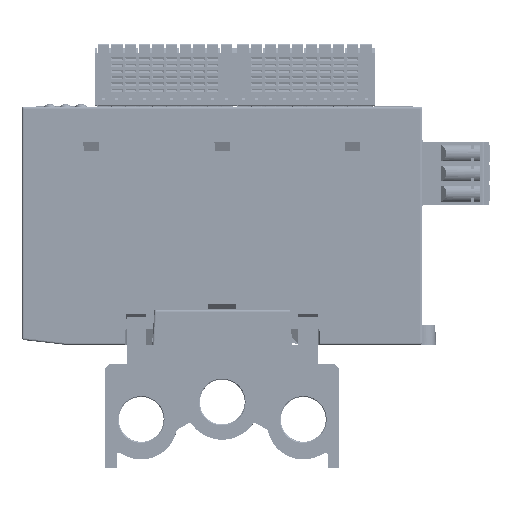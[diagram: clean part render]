
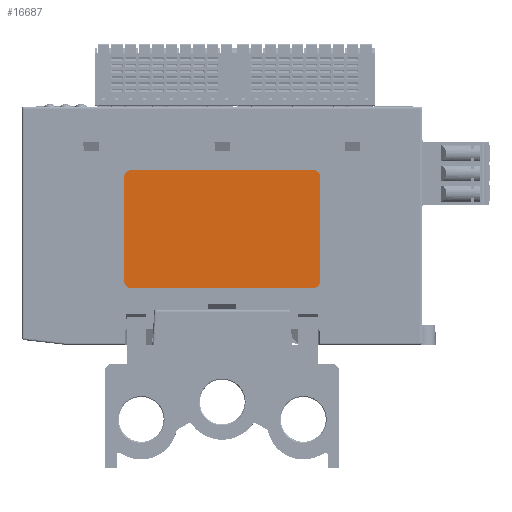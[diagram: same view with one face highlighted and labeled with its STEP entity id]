
A CAD part, front view. The second image highlights one B-rep face of the part: STEP entity #16687.
In plain terms, the highlighted planar face has unit normal (0, -1, 0).
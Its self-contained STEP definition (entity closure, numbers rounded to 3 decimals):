
#7218=FACE_OUTER_BOUND('',#40428,.T.);
#16687=ADVANCED_FACE('',(#7218),#26249,.F.);
#26249=PLANE('',#181726);
#32980=CIRCLE('',#181722,1.8);
#32981=CIRCLE('',#181723,1.8);
#32982=CIRCLE('',#181724,1.8);
#32983=CIRCLE('',#181725,1.8);
#40428=EDGE_LOOP('',(#54407,#54408,#54409,#54410,#54411,#54412,#54413,#54414));
#54407=ORIENTED_EDGE('',*,*,#121147,.F.);
#54408=ORIENTED_EDGE('',*,*,#121152,.T.);
#54409=ORIENTED_EDGE('',*,*,#121153,.F.);
#54410=ORIENTED_EDGE('',*,*,#121154,.T.);
#54411=ORIENTED_EDGE('',*,*,#121149,.F.);
#54412=ORIENTED_EDGE('',*,*,#121155,.T.);
#54413=ORIENTED_EDGE('',*,*,#121143,.F.);
#54414=ORIENTED_EDGE('',*,*,#121156,.T.);
#103817=VERTEX_POINT('',#254261);
#103818=VERTEX_POINT('',#254262);
#103819=VERTEX_POINT('',#254267);
#103820=VERTEX_POINT('',#254269);
#103821=VERTEX_POINT('',#254273);
#103822=VERTEX_POINT('',#254274);
#103823=VERTEX_POINT('',#254279);
#103824=VERTEX_POINT('',#254281);
#121143=EDGE_CURVE('',#103817,#103818,#145673,.T.);
#121147=EDGE_CURVE('',#103819,#103820,#145677,.T.);
#121149=EDGE_CURVE('',#103821,#103822,#145679,.T.);
#121152=EDGE_CURVE('',#103819,#103823,#32980,.T.);
#121153=EDGE_CURVE('',#103824,#103823,#145682,.T.);
#121154=EDGE_CURVE('',#103824,#103822,#32981,.T.);
#121155=EDGE_CURVE('',#103821,#103818,#32982,.T.);
#121156=EDGE_CURVE('',#103817,#103820,#32983,.T.);
#145673=LINE('',#254260,#163733);
#145677=LINE('',#254268,#163737);
#145679=LINE('',#254272,#163739);
#145682=LINE('',#254280,#163742);
#163733=VECTOR('',#200071,1.);
#163737=VECTOR('',#200077,1.);
#163739=VECTOR('',#200081,1.);
#163742=VECTOR('',#200088,1.);
#181722=AXIS2_PLACEMENT_3D('',#254278,#200086,#200087);
#181723=AXIS2_PLACEMENT_3D('',#254282,#200089,#200090);
#181724=AXIS2_PLACEMENT_3D('',#254283,#200091,#200092);
#181725=AXIS2_PLACEMENT_3D('',#254284,#200093,#200094);
#181726=AXIS2_PLACEMENT_3D('',#254285,#200095,#200096);
#200071=DIRECTION('',(0.,0.,-1.));
#200077=DIRECTION('',(1.,0.,0.));
#200081=DIRECTION('',(-1.,0.,0.));
#200086=DIRECTION('',(0.,-1.,0.));
#200087=DIRECTION('',(0.,0.,1.));
#200088=DIRECTION('',(0.,0.,1.));
#200089=DIRECTION('',(0.,-1.,0.));
#200090=DIRECTION('',(0.,0.,-1.));
#200091=DIRECTION('',(0.,-1.,0.));
#200092=DIRECTION('',(0.,0.,-1.));
#200093=DIRECTION('',(0.,-1.,0.));
#200094=DIRECTION('',(0.,0.,-1.));
#200095=DIRECTION('',(0.,1.,0.));
#200096=DIRECTION('',(0.,0.,-1.));
#254260=CARTESIAN_POINT('',(525.15,1997.86,34.634));
#254261=CARTESIAN_POINT('',(525.15,1997.86,47.934));
#254262=CARTESIAN_POINT('',(525.15,1997.86,21.334));
#254267=CARTESIAN_POINT('',(476.75,1997.86,49.734));
#254268=CARTESIAN_POINT('',(500.05,1997.86,49.734));
#254269=CARTESIAN_POINT('',(523.35,1997.86,49.734));
#254272=CARTESIAN_POINT('',(475.05,1997.86,19.534));
#254273=CARTESIAN_POINT('',(523.35,1997.86,19.534));
#254274=CARTESIAN_POINT('',(476.75,1997.86,19.534));
#254278=CARTESIAN_POINT('',(476.75,1997.86,47.934));
#254279=CARTESIAN_POINT('',(474.95,1997.86,47.934));
#254280=CARTESIAN_POINT('',(474.95,1997.86,34.634));
#254281=CARTESIAN_POINT('',(474.95,1997.86,21.334));
#254282=CARTESIAN_POINT('',(476.75,1997.86,21.334));
#254283=CARTESIAN_POINT('',(523.35,1997.86,21.334));
#254284=CARTESIAN_POINT('',(523.35,1997.86,47.934));
#254285=CARTESIAN_POINT('',(500.041,1997.86,23.341));
